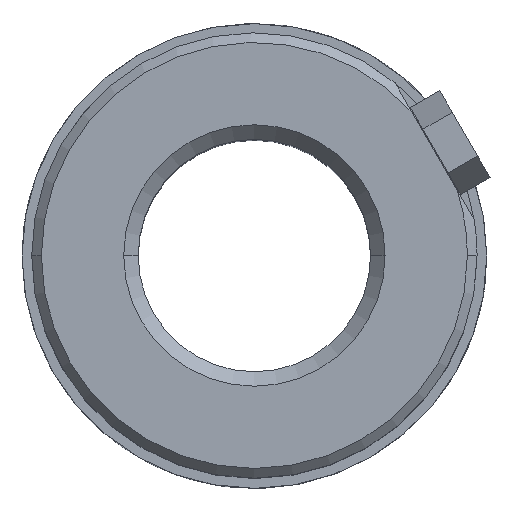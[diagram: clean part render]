
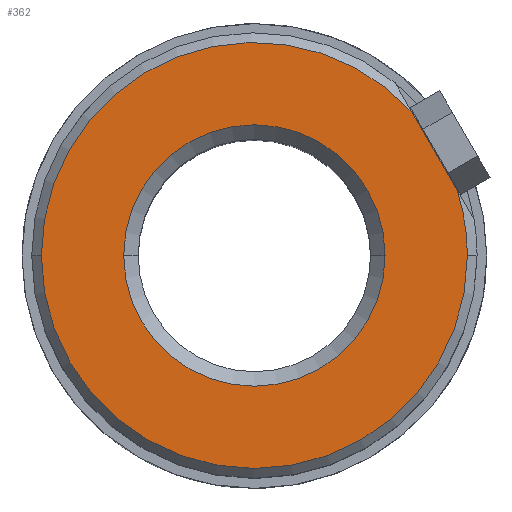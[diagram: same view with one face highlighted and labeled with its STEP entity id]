
A CAD part, top view. The second image highlights one B-rep face of the part: STEP entity #362.
In plain terms, the highlighted planar face has unit normal (0, 0, 1).
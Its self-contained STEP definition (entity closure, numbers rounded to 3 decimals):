
#235=CARTESIAN_POINT('Axis2P3D Location',(0.,0.,36.)) ;
#239=CARTESIAN_POINT('Vertex',(13.5,0.,36.)) ;
#241=CARTESIAN_POINT('Vertex',(-13.5,0.,36.)) ;
#314=CARTESIAN_POINT('Axis2P3D Location',(13.5,0.,36.)) ;
#319=CARTESIAN_POINT('Line Origine',(18.62,10.75,36.)) ;
#323=CARTESIAN_POINT('Vertex',(20.951,6.711,36.)) ;
#325=CARTESIAN_POINT('Vertex',(16.288,14.789,36.)) ;
#328=CARTESIAN_POINT('Axis2P3D Location',(0.,0.,36.)) ;
#332=CARTESIAN_POINT('Vertex',(-22.,0.,36.)) ;
#335=CARTESIAN_POINT('Axis2P3D Location',(0.,0.,36.)) ;
#339=CARTESIAN_POINT('Vertex',(22.,0.,36.)) ;
#342=CARTESIAN_POINT('Axis2P3D Location',(0.,0.,36.)) ;
#353=CARTESIAN_POINT('Axis2P3D Location',(0.,0.,36.)) ;
#236=DIRECTION('Axis2P3D Direction',(0.,-0.,1.)) ;
#315=DIRECTION('Axis2P3D Direction',(0.,-0.,1.)) ;
#316=DIRECTION('Axis2P3D XDirection',(1.,0.,0.)) ;
#320=DIRECTION('Vector Direction',(-0.5,0.866,0.)) ;
#329=DIRECTION('Axis2P3D Direction',(0.,-0.,1.)) ;
#336=DIRECTION('Axis2P3D Direction',(0.,-0.,1.)) ;
#343=DIRECTION('Axis2P3D Direction',(0.,-0.,1.)) ;
#354=DIRECTION('Axis2P3D Direction',(0.,-0.,1.)) ;
#237=AXIS2_PLACEMENT_3D('Circle Axis2P3D',#235,#236,$) ;
#317=AXIS2_PLACEMENT_3D('Plane Axis2P3D',#314,#315,#316) ;
#330=AXIS2_PLACEMENT_3D('Circle Axis2P3D',#328,#329,$) ;
#337=AXIS2_PLACEMENT_3D('Circle Axis2P3D',#335,#336,$) ;
#344=AXIS2_PLACEMENT_3D('Circle Axis2P3D',#342,#343,$) ;
#355=AXIS2_PLACEMENT_3D('Circle Axis2P3D',#353,#354,$) ;
#348=ORIENTED_EDGE('',*,*,#327,.T.) ;
#349=ORIENTED_EDGE('',*,*,#334,.T.) ;
#350=ORIENTED_EDGE('',*,*,#341,.T.) ;
#351=ORIENTED_EDGE('',*,*,#346,.T.) ;
#359=ORIENTED_EDGE('',*,*,#357,.F.) ;
#360=ORIENTED_EDGE('',*,*,#243,.F.) ;
#361=FACE_BOUND('',#358,.T.) ;
#321=VECTOR('Line Direction',#320,1.) ;
#362=ADVANCED_FACE('741-24',(#352,#361),#318,.T.) ;
#238=CIRCLE('generated circle',#237,13.5) ;
#331=CIRCLE('generated circle',#330,22.) ;
#338=CIRCLE('generated circle',#337,22.) ;
#345=CIRCLE('generated circle',#344,22.) ;
#356=CIRCLE('generated circle',#355,13.5) ;
#243=EDGE_CURVE('',#240,#242,#238,.T.) ;
#327=EDGE_CURVE('',#324,#326,#322,.T.) ;
#334=EDGE_CURVE('',#326,#333,#331,.T.) ;
#341=EDGE_CURVE('',#333,#340,#338,.T.) ;
#346=EDGE_CURVE('',#340,#324,#345,.T.) ;
#357=EDGE_CURVE('',#242,#240,#356,.T.) ;
#347=EDGE_LOOP('',(#348,#349,#350,#351)) ;
#358=EDGE_LOOP('',(#359,#360)) ;
#352=FACE_OUTER_BOUND('',#347,.T.) ;
#322=LINE('Line',#319,#321) ;
#318=PLANE('Plane',#317) ;
#240=VERTEX_POINT('',#239) ;
#242=VERTEX_POINT('',#241) ;
#324=VERTEX_POINT('',#323) ;
#326=VERTEX_POINT('',#325) ;
#333=VERTEX_POINT('',#332) ;
#340=VERTEX_POINT('',#339) ;
